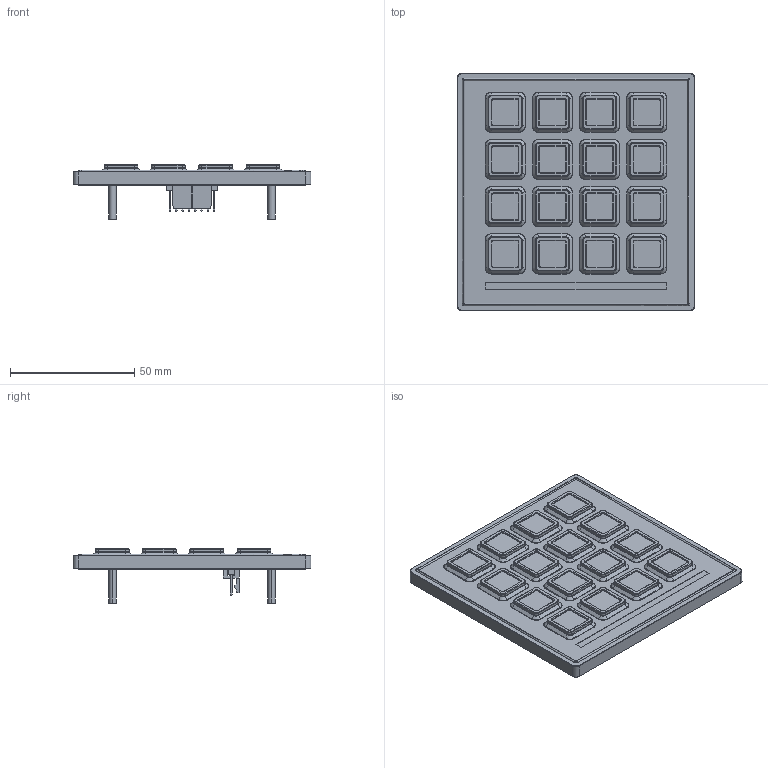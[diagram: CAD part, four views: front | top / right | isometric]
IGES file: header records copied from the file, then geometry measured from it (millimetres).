
Start section: SolidWorks IGES file using analytic representation for surfaces
Global section: file name: C:\Users\anthonyc\Desktop\070-16-ASSY~1.IGS; native system: SolidWorks 2017; preprocessor: SolidWorks 2017; author: anthonyc; date: 180305.154936; units: millimetre
Bounding box: 95.63 x 95.62 x 21.8 mm (x, y, z)
Surface area: 26567.9 mm2 (no closed solid volume)
Topology: 0 solids, 0 shells, 1139 faces, 7104 edges, 7104 vertices
Faces by surface type: bspline 661, revolution 478
